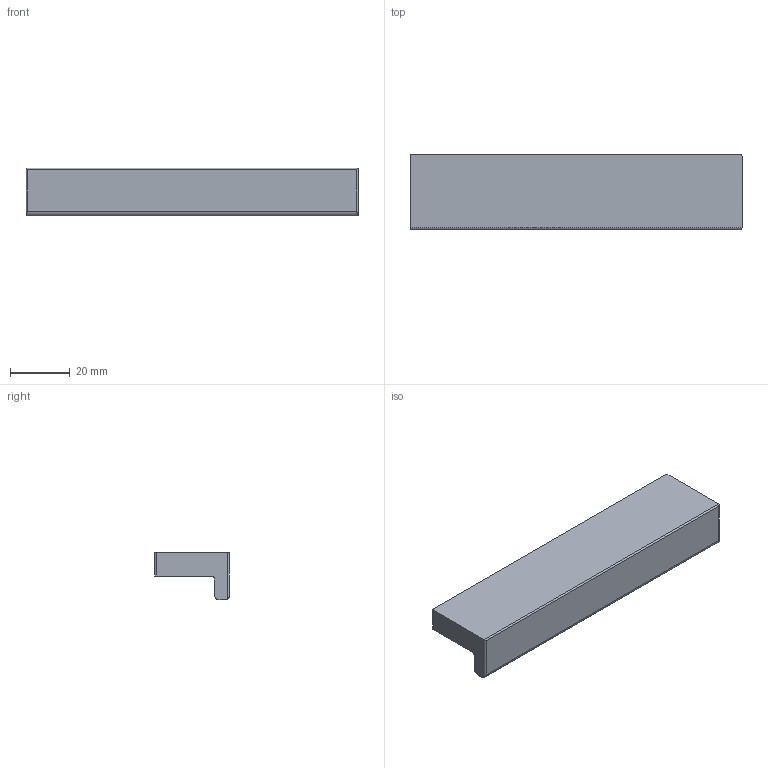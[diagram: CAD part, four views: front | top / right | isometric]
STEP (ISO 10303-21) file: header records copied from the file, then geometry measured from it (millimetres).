
FILE_DESCRIPTION( ( 'STEP AP214' ), '1' );
FILE_NAME( 'C:/Users/kulkarni/Desktop/Apurva/2015/Prodecor_2016/Cadfiles/same as files/rovigo/9204023.stp', ' ', ( ' ' ), ( ' ' ), 'PSStep 15.0.47', 'PARTsolutions', ' ' );
FILE_SCHEMA( ( 'AUTOMOTIVE_DESIGN { 1 0 10303 214 1 1 1 1 }' ) );
Length unit declared in the file: millimetre
Products named in the file (1): _9204023
Bounding box: 111 x 25 x 16 mm (x, y, z)
Volume: 26296.9 mm3; surface area: 9607.2 mm2
Topology: 1 solids, 1 shells, 20 faces, 46 edges, 30 vertices
Faces by surface type: plane 10, cylinder 10
Full cylindrical faces by diameter (mm): 4 x2
Entity records: 746 total; most frequent: CARTESIAN_POINT 109, DIRECTION 100, ORIENTED_EDGE 88, EDGE_CURVE 44, AXIS2_PLACEMENT_3D 37, VERTEX_POINT 30, LINE 26, VECTOR 26
